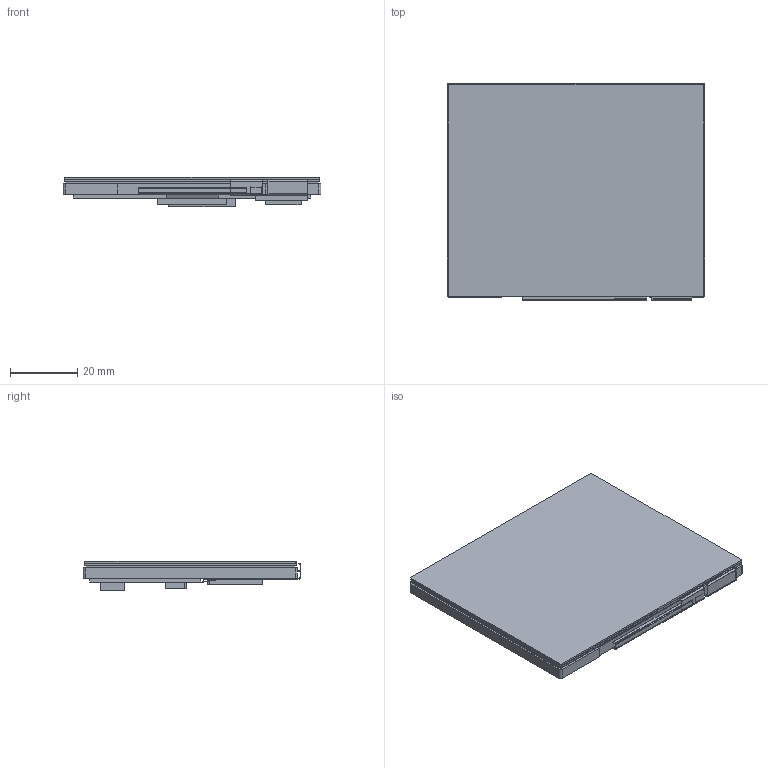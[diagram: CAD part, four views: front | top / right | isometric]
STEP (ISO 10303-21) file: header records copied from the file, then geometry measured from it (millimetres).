
FILE_DESCRIPTION( ('This file contains a STEP AP42 implementation' ,'as created by ZW3D STEP Interface translator.') ,'2;1' );
FILE_NAME( 'EE0350ET-2CP-B.stp' ,'20 526.151616', (''), ('ZWCAD Software Co.'), 'Version 1.0', 'ZW3D to STEP translator', '' );
FILE_SCHEMA(('AUTOMOTIVE_DESIGN'));
Length unit declared in the file: millimetre
Products named in the file (2): 0; EE0350ET-2CP-B
Bounding box: 76.74 x 64.74 x 8.75 mm (x, y, z)
Volume: 28455.8 mm3; surface area: 49921.3 mm2
Topology: 23 solids, 23 shells, 237 faces, 564 edges, 376 vertices
Faces by surface type: bspline 237
Entity records: 6489 total; most frequent: CARTESIAN_POINT 2649, ORIENTED_EDGE 1128, EDGE_CURVE 564, B_SPLINE_CURVE_WITH_KNOTS 484, VERTEX_POINT 376, EDGE_LOOP 240, FACE_OUTER_BOUND 237, ADVANCED_FACE 237
